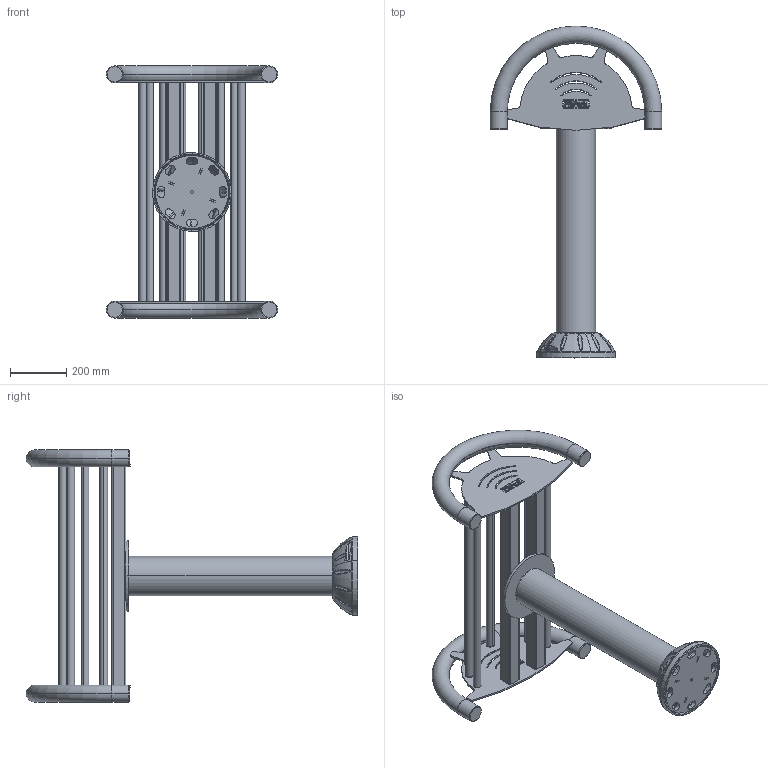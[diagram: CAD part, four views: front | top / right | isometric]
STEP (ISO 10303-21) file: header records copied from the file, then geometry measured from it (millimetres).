
FILE_DESCRIPTION (( 'STEP AP214' ), '1' );
FILE_NAME ('S0207 - DEMI CYLINDRE SIMPLE ASS V1.0.STEP', '2020-03-12T14:18:57', ( '' ), ( '' ), 'SwSTEP 2.0', 'SolidWorks 2019', '' );
FILE_SCHEMA (( 'AUTOMOTIVE_DESIGN' ));
Length unit declared in the file: millimetre
Products named in the file (15): SB0112 - Vis Torx teton central M8x20_M8x20; PU-TOLGOPL - Gousset platine V2.0; PLATINE BASE ASS V2.0; TRESM-50x50-780 - Tube 50x50 L=780 V1.0; SCH1805 - Chapeau D56 V1.0; SC0304 - CACHE PLATINE ASS V4.0; TROPOIG-S0207A - Poignée demi cylindre V1.0; TROSM-140-800 - Tube D.139,7x3 L=800 V1.0; BATI-S0207 - BATI DEMI CYLINDRE SIMPLE V1.0_Atelier; TROSM-28-780 - Tube D.28x2,5 L=780 V1.0; SC0304 - Demi cache platine D140 V4.0; TOLDISQ-S0207A - Disque demi cylindre V1.0; PU-TOLPLAT - Platine base V1.0; S0207 - DEMI CYLINDRE SIMPLE ASS V1.0; TOLDDE-S0207A - Demi disque externe demi cylindre V1.0
Assembly tree (31 placements, depth 4):
  S0207 - DEMI CYLINDRE SIMPLE ASS V1.0
    BATI-S0207 - BATI DEMI CYLINDRE SIMPLE V1.0_Atelier
      PLATINE BASE ASS V2.0
        PU-TOLPLAT - Platine base V1.0
        PU-TOLGOPL - Gousset platine V2.0  x4
      TROSM-140-800 - Tube D.139,7x3 L=800 V1.0
      TOLDISQ-S0207A - Disque demi cylindre V1.0
      TRESM-50x50-780 - Tube 50x50 L=780 V1.0  x2
      TROSM-28-780 - Tube D.28x2,5 L=780 V1.0  x8
      TROPOIG-S0207A - Poignée demi cylindre V1.0  x2
      SCH1805 - Chapeau D56 V1.0  x4
      TOLDDE-S0207A - Demi disque externe demi cylindre V1.0  x2
    SC0304 - CACHE PLATINE ASS V4.0
      SC0304 - Demi cache platine D140 V4.0
      SB0112 - Vis Torx teton central M8x20_M8x20  x2
Bounding box: 610.3 x 1180.18 x 897.38 mm (x, y, z)
Volume: 6997335.6 mm3; surface area: 3838771 mm2
Topology: 29 solids, 29 shells, 1042 faces, 2722 edges, 1764 vertices
Faces by surface type: bspline 404, cylinder 308, plane 260, cone 50, torus 20
Entity records: 108264 total; most frequent: CARTESIAN_POINT 92301, ORIENTED_EDGE 3666, DIRECTION 2495, EDGE_CURVE 1833, VERTEX_POINT 1176, AXIS2_PLACEMENT_3D 972, EDGE_LOOP 801, ADVANCED_FACE 704
